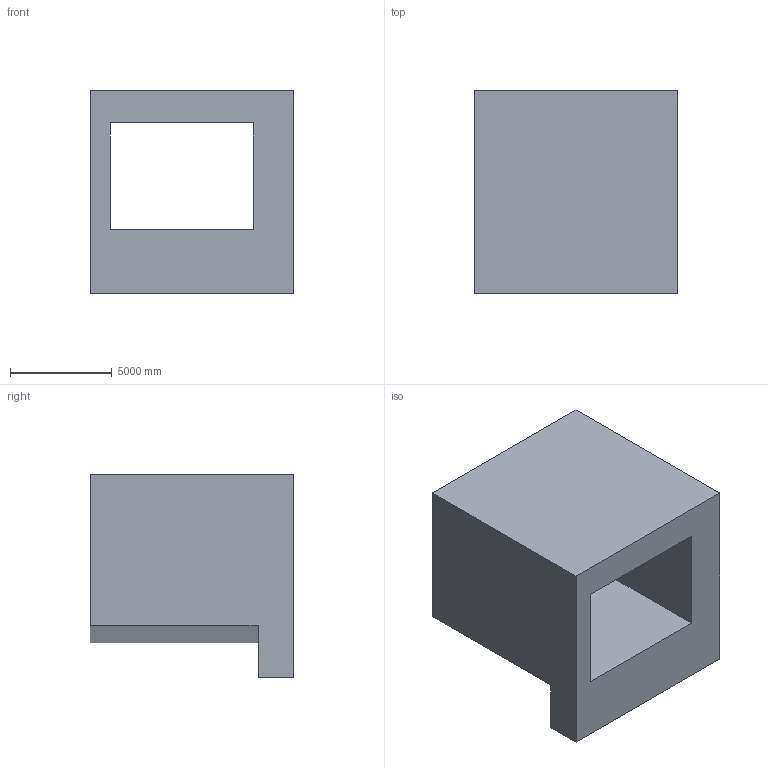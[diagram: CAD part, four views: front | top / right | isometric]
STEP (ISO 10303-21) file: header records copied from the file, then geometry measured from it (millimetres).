
FILE_DESCRIPTION (( 'STEP AP203' ), '1' );
FILE_NAME ('0.STEP', '2022-08-31T11:06:45', ( 'user' ), ( '' ), 'SwSTEP 2.0', 'SolidWorks 2021', '' );
FILE_SCHEMA (( 'CONFIG_CONTROL_DESIGN' ));
Length unit declared in the file: centimetre
Products named in the file (1): 0
Bounding box: 10000 x 10000 x 10000 mm (x, y, z)
Volume: 454328806212 mm3; surface area: 736971609.3 mm2
Topology: 1 solids, 1 shells, 12 faces, 30 edges, 20 vertices
Faces by surface type: plane 12
Entity records: 435 total; most frequent: CARTESIAN_POINT 63, ORIENTED_EDGE 60, DIRECTION 56, LINE 30, VECTOR 30, EDGE_CURVE 30, VERTEX_POINT 20, EDGE_LOOP 14
